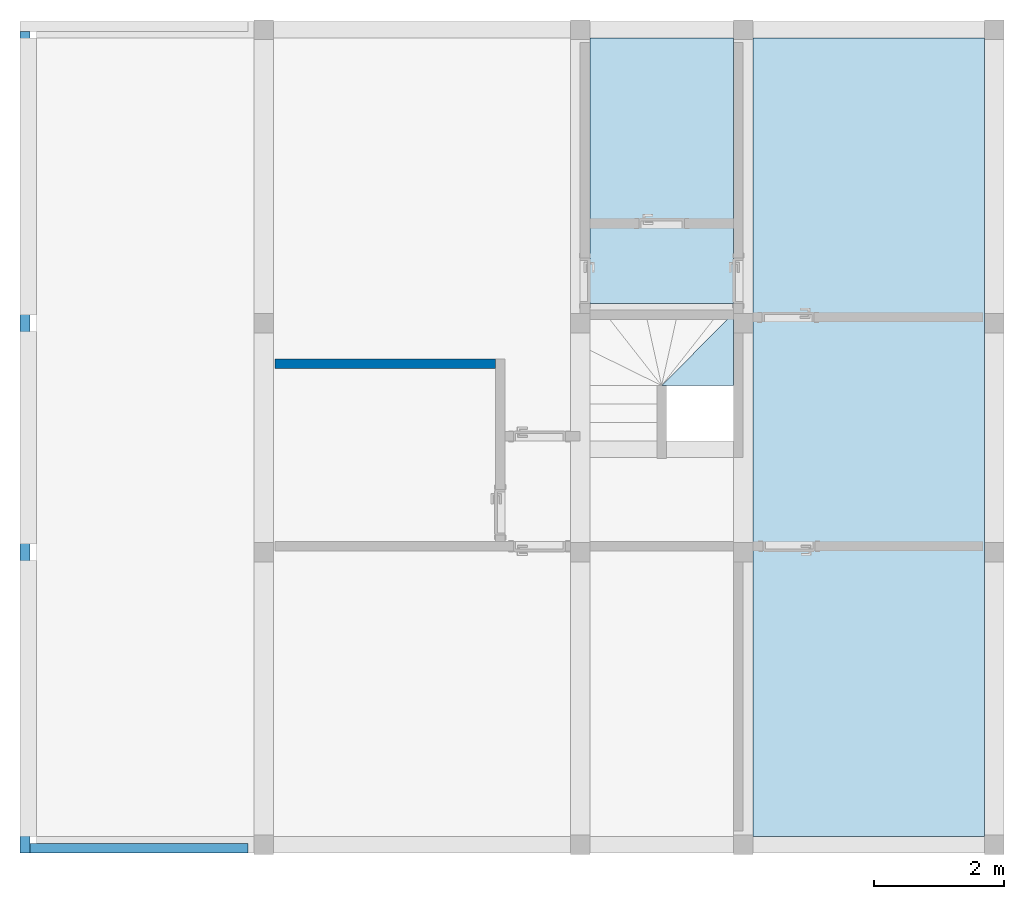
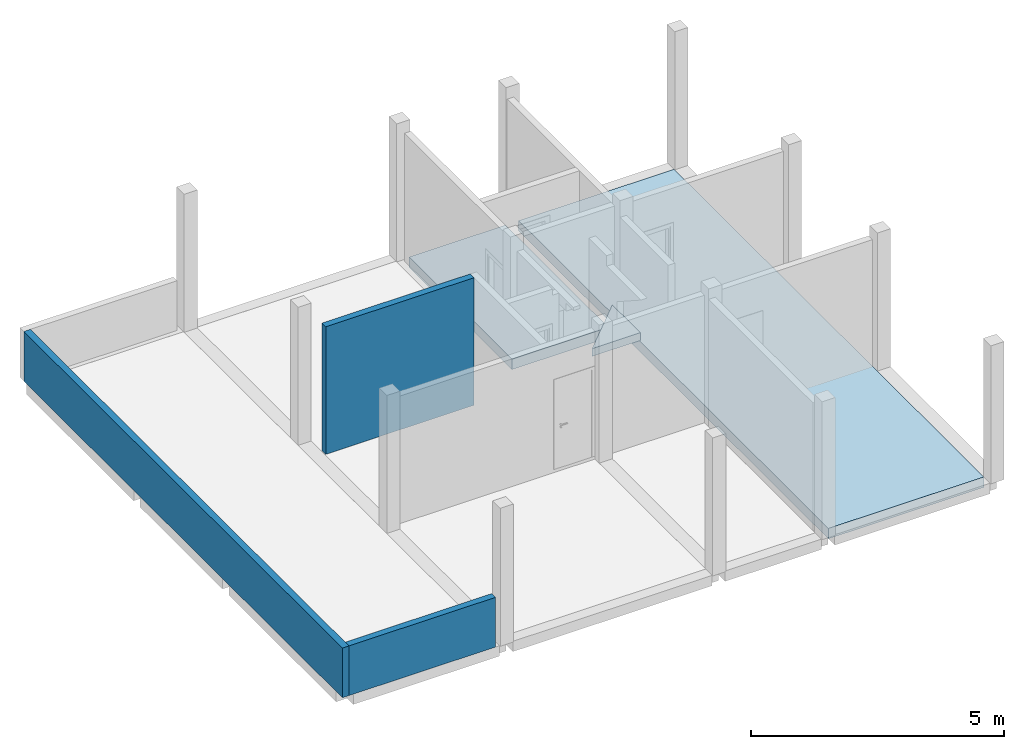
# One storey, part 2 of 11: 3 slabs, 3 walls.
"""IFC2X3 building model written with IfcOpenShell, lengths in metres."""

from ifc_helpers import new_model, entity, si_unit, converted_unit, derived_unit, direction, frame, frame_2d, origin, place, context, subcontext, project, spatial, polyline, rectangle, outline, extrude, material, layer, layer_set, layer_usage, type_object, element, save


model = new_model("IFC2X3")

# Units and contexts
model_context = context("Model", 3, precision=1e-05, world=origin(), true_north=direction((6.12303176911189e-17, 1.0)))
context_of_model = context(None, 3, precision=1e-05, world=origin(), true_north=direction((6.12303176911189e-17, 1.0)))
body_context = subcontext(model_context, "Body", "Model", "MODEL_VIEW")
ifc_project = project(units=[si_unit("LENGTHUNIT", "METRE"), si_unit("AREAUNIT", "SQUARE_METRE"), si_unit("VOLUMEUNIT", "CUBIC_METRE"), converted_unit("PLANEANGLEUNIT", "DEGREE", entity("IfcRatioMeasure", 0.0174532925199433), si_unit("PLANEANGLEUNIT", "RADIAN"), dimensions=[0, 0, 0, 0, 0, 0, 0]), si_unit("MASSUNIT", "GRAM", prefix="KILO"), si_unit("TIMEUNIT", "SECOND"), si_unit("FREQUENCYUNIT", "HERTZ"), si_unit("THERMODYNAMICTEMPERATUREUNIT", "DEGREE_CELSIUS"), derived_unit("THERMALTRANSMITTANCEUNIT", [(si_unit("MASSUNIT", "GRAM", prefix="KILO"), 1), (si_unit("THERMODYNAMICTEMPERATUREUNIT", "KELVIN"), -1), (si_unit("TIMEUNIT", "SECOND"), -3)]), derived_unit("VOLUMETRICFLOWRATEUNIT", [(si_unit("LENGTHUNIT", "METRE"), 3), (si_unit("TIMEUNIT", "SECOND"), -1)]), si_unit("ELECTRICCURRENTUNIT", "AMPERE"), si_unit("ELECTRICVOLTAGEUNIT", "VOLT"), si_unit("POWERUNIT", "WATT"), si_unit("FORCEUNIT", "NEWTON", prefix="KILO"), si_unit("ILLUMINANCEUNIT", "LUX"), si_unit("LUMINOUSFLUXUNIT", "LUMEN"), si_unit("LUMINOUSINTENSITYUNIT", "CANDELA"), si_unit("PRESSUREUNIT", "PASCAL")], contexts=[model_context, context_of_model])

# Site, building, storey
site_placement = place(None, origin())
site = spatial("IfcSite", under=ifc_project, at=site_placement, Name="Default", CompositionType="ELEMENT")
building_placement = place(site_placement, origin())
building = spatial("IfcBuilding", under=site, at=building_placement, CompositionType="ELEMENT")
storey_placement = place(building_placement, frame((0.0, 0.0, 3.45)))
storey = spatial("IfcBuildingStorey", under=building, at=storey_placement, Name="02.ES.PLANTA PRIMERA", CompositionType="ELEMENT", Elevation=3.45)

# Slabs
ifc_material_1 = material(Name="Suelos por defecto")
ifc_layer_1 = layer(ifc_material_1, 0.25)
ifc_layer_set_1 = layer_set([ifc_layer_1], Name="Suelo:Forjado bovedilla + vigueta - 25 cm")
ifc_layer_usage_1 = layer_usage(ifc_layer_set_1, "AXIS3", "POSITIVE", 0.0)
slab_1_placement = place(storey_placement, origin())
element("IfcSlab", 1, at=slab_1_placement, inside=storey, material=ifc_layer_usage_1, Name="Suelo:Forjado bovedilla + vigueta - 25 cm", ObjectType="Suelo:Forjado bovedilla + vigueta - 25 cm", PredefinedType="FLOOR", context=body_context, shape_type="SweptSolid", body=[
    extrude(rectangle(XDim=4.06999999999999, YDim=2.19999999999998, at=frame_2d((-4.44089209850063e-16, 0.0), x_axis=(1.0, 0.0))), frame((10.315, 10.94, 0.0), z_axis=(0.0, 0.0, -1.0), x_axis=(0.0, 1.0, 0.0)), (0.0, 0.0, 1.0), 0.25),
])
ifc_layer_usage_2 = layer_usage(ifc_layer_set_1, "AXIS3", "POSITIVE", 0.0)
slab_2_placement = place(storey_placement, origin())
element("IfcSlab", 2, at=slab_2_placement, inside=storey, material=ifc_layer_usage_2, Name="Suelo:Forjado bovedilla + vigueta - 25 cm", ObjectType="Suelo:Forjado bovedilla + vigueta - 25 cm", PredefinedType="FLOOR", context=body_context, shape_type="SweptSolid", body=[
    extrude(rectangle(XDim=12.25, YDim=3.55000000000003, at=frame_2d((-8.88178419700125e-16, -1.11022302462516e-15), x_axis=(1.0, 0.0))), frame((13.49, 6.84999999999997, 0.0), z_axis=(0.0, 0.0, -1.0), x_axis=(0.0, 1.0, 0.0)), (0.0, 0.0, 1.0), 0.25),
])
slab_3_placement = place(storey_placement, origin())
element("IfcSlab", 3, at=slab_3_placement, inside=storey, material=ifc_material_1, Name="Losa Escalera 3:Losa Escalera 2", ObjectType="Losa Escalera 3:Losa Escalera 2", PredefinedType="FLOOR", context=body_context, shape_type="SweptSolid", body=[
    extrude(outline(polyline([(-0.368644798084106, -0.36697672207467), (0.737289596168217, -0.36697672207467), (-0.368644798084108, 0.733953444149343), (-0.368644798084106, -0.36697672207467)])), frame((11.0480232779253, 8.01277205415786, 0.447346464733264), z_axis=(0.0, 0.0, 1.0), x_axis=(0.0, 1.0, 0.0)), (0.0, 0.0, 1.0), 0.187655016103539),
])

# Walls
ifc_material_2 = material(Name="Muro por defecto")
ifc_layer_2 = layer(ifc_material_2, 0.15)
ifc_layer_set_2 = layer_set([ifc_layer_2], Name="Muro básico:Por defecto - 15 cm")
ifc_layer_usage_3 = layer_usage(ifc_layer_set_2, "AXIS2", "NEGATIVE", 0.075)
wall_type = type_object("IfcWallType", Name="Muro básico:Por defecto - 15 cm", PredefinedType="STANDARD", material=ifc_layer_set_2)
wall_1_placement = place(storey_placement, frame((7.76500000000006, 7.98006108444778, 0.0), z_axis=(0.0, 0.0, 1.0), x_axis=(-1.0, 0.0, 0.0)))
element("IfcWallStandardCase", 4, at=wall_1_placement, inside=storey, type_object=wall_type, material=ifc_layer_usage_3, Name="Muro básico:Por defecto - 15 cm", ObjectType="Muro básico:Por defecto - 15 cm", context=body_context, shape_type="SweptSolid", body=[
    extrude(rectangle(XDim=3.38000000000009, YDim=0.150000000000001, at=frame_2d((1.69000000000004, -2.4980018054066e-16), x_axis=(-1.0, 0.0))), origin(), (0.0, 0.0, 1.0), 3.08),
])
ifc_layer_usage_4 = layer_usage(ifc_layer_set_2, "AXIS2", "NEGATIVE", 0.075)
wall_2_placement = place(storey_placement, frame((0.550000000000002, 13.075, 0.0), z_axis=(0.0, 0.0, 1.0), x_axis=(0.0, -1.0, 0.0)))
element("IfcWallStandardCase", 5, at=wall_2_placement, inside=storey, type_object=wall_type, material=ifc_layer_usage_4, Name="Muro básico:Por defecto - 15 cm", ObjectType="Muro básico:Por defecto - 15 cm", context=body_context, shape_type="SweptSolid", body=[
    extrude(rectangle(XDim=12.6, YDim=0.15, at=frame_2d((6.3, 6.93889390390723e-18), x_axis=(-1.0, 0.0))), origin(), (0.0, 0.0, 1.0), 1.2),
])
ifc_layer_usage_5 = layer_usage(ifc_layer_set_2, "AXIS2", "NEGATIVE", 0.075)
wall_3_placement = place(storey_placement, frame((0.624999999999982, 0.550000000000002, 0.0)))
element("IfcWallStandardCase", 6, at=wall_3_placement, inside=storey, type_object=wall_type, material=ifc_layer_usage_5, Name="Muro básico:Por defecto - 15 cm", ObjectType="Muro básico:Por defecto - 15 cm", context=body_context, shape_type="SweptSolid", body=[
    extrude(rectangle(XDim=3.34999999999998, YDim=0.15, at=frame_2d((1.67499999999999, 2.77555756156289e-17), x_axis=(-1.0, 0.0))), origin(), (0.0, 0.0, 1.0), 1.2),
])

save(model, "model.ifc")
